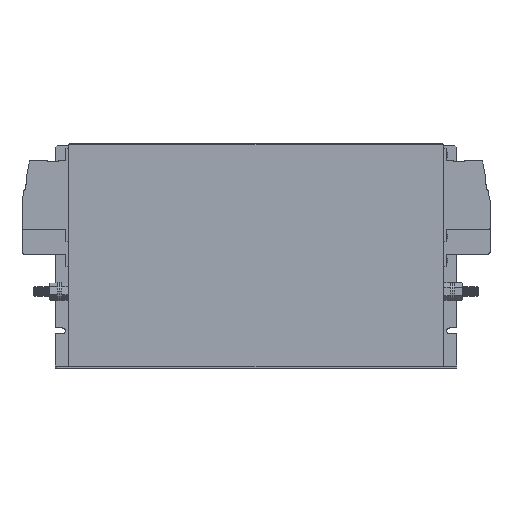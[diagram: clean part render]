
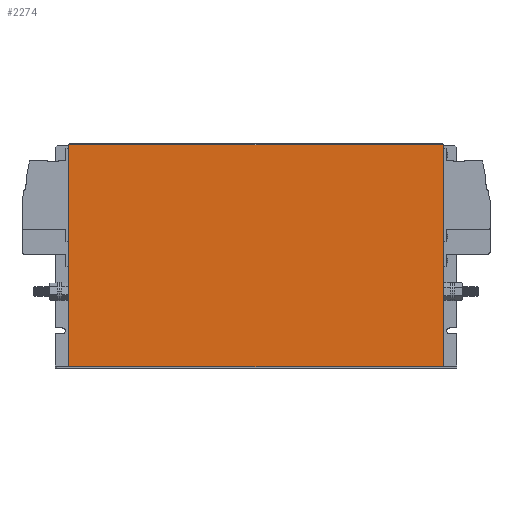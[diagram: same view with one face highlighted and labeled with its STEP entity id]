
A CAD part, top view. The second image highlights one B-rep face of the part: STEP entity #2274.
In plain terms, the highlighted planar face has unit normal (0, 0, 1).
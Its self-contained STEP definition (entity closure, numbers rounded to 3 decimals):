
#185 = DIRECTION ( 'NONE',  ( 0., 0., -1. ) ) ;
#517 = DIRECTION ( 'NONE',  ( 0., -1., 0. ) ) ;
#737 = VECTOR ( 'NONE', #517, 1000. ) ;
#1024 = ORIENTED_EDGE ( 'NONE', *, *, #3062, .F. ) ;
#1619 = LINE ( 'NONE', #7337, #2029 ) ;
#1964 = VECTOR ( 'NONE', #6647, 1000. ) ;
#2029 = VECTOR ( 'NONE', #8316, 1000. ) ;
#2274 = ADVANCED_FACE ( 'NONE', ( #4036 ), #8067, .F. ) ;
#2680 = LINE ( 'NONE', #11131, #737 ) ;
#2767 = CARTESIAN_POINT ( 'NONE',  ( 414.5, 1.5, 1.5 ) ) ;
#2781 = CARTESIAN_POINT ( 'NONE',  ( 14.5, 1.5, 1.5 ) ) ;
#3062 = EDGE_CURVE ( 'NONE', #11185, #3436, #2680, .T. ) ;
#3436 = VERTEX_POINT ( 'NONE', #2767 ) ;
#4036 = FACE_OUTER_BOUND ( 'NONE', #10578, .T. ) ;
#4043 = ORIENTED_EDGE ( 'NONE', *, *, #8720, .T. ) ;
#4244 = VERTEX_POINT ( 'NONE', #6607 ) ;
#4484 = DIRECTION ( 'NONE',  ( -1., 0., 0. ) ) ;
#5046 = LINE ( 'NONE', #11065, #1964 ) ;
#5112 = ORIENTED_EDGE ( 'NONE', *, *, #7213, .T. ) ;
#5399 = ORIENTED_EDGE ( 'NONE', *, *, #11010, .T. ) ;
#5413 = DIRECTION ( 'NONE',  ( 1., 0., 0. ) ) ;
#5968 = CARTESIAN_POINT ( 'NONE',  ( 414.5, 238.5, 1.5 ) ) ;
#6520 = VERTEX_POINT ( 'NONE', #11007 ) ;
#6607 = CARTESIAN_POINT ( 'NONE',  ( 14.5, 238.5, 1.5 ) ) ;
#6647 = DIRECTION ( 'NONE',  ( 0., -1., 0. ) ) ;
#7213 = EDGE_CURVE ( 'NONE', #4244, #6520, #5046, .T. ) ;
#7337 = CARTESIAN_POINT ( 'NONE',  ( 14.5, 238.5, 1.5 ) ) ;
#7825 = LINE ( 'NONE', #2781, #10593 ) ;
#8067 = PLANE ( 'NONE',  #9786 ) ;
#8136 = CARTESIAN_POINT ( 'NONE',  ( 14.5, 240., 1.5 ) ) ;
#8316 = DIRECTION ( 'NONE',  ( -1., 0., 0. ) ) ;
#8720 = EDGE_CURVE ( 'NONE', #6520, #3436, #7825, .T. ) ;
#9786 = AXIS2_PLACEMENT_3D ( 'NONE', #8136, #185, #4484 ) ;
#10578 = EDGE_LOOP ( 'NONE', ( #1024, #5399, #5112, #4043 ) ) ;
#10593 = VECTOR ( 'NONE', #5413, 1000. ) ;
#11007 = CARTESIAN_POINT ( 'NONE',  ( 14.5, 1.5, 1.5 ) ) ;
#11010 = EDGE_CURVE ( 'NONE', #11185, #4244, #1619, .T. ) ;
#11065 = CARTESIAN_POINT ( 'NONE',  ( 14.5, 240., 1.5 ) ) ;
#11131 = CARTESIAN_POINT ( 'NONE',  ( 414.5, 240., 1.5 ) ) ;
#11185 = VERTEX_POINT ( 'NONE', #5968 ) ;
